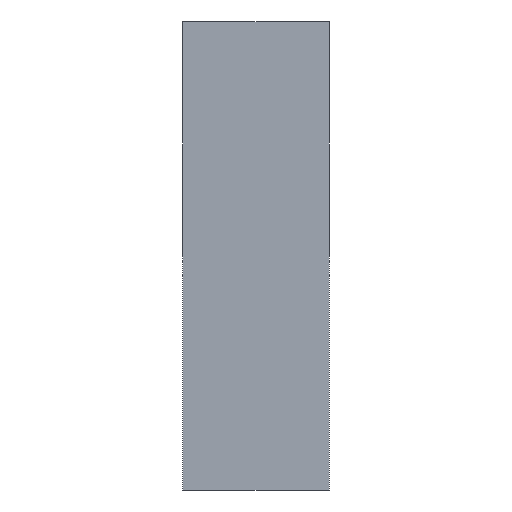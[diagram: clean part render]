
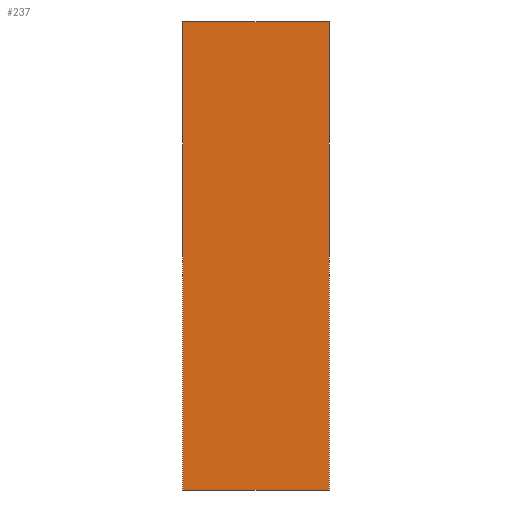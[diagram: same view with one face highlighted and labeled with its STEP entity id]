
A CAD part, front view. The second image highlights one B-rep face of the part: STEP entity #237.
In plain terms, the highlighted planar face has unit normal (0, -1, 0).
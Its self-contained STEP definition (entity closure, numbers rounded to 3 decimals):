
#21 = EDGE_CURVE('',#22,#24,#26,.T.);
#22 = VERTEX_POINT('',#23);
#23 = CARTESIAN_POINT('',(-232.5,-85.,36.74));
#24 = VERTEX_POINT('',#25);
#25 = CARTESIAN_POINT('',(-232.5,-85.,87.74));
#26 = SURFACE_CURVE('',#27,(#31,#43),.PCURVE_S1.);
#27 = LINE('',#28,#29);
#28 = CARTESIAN_POINT('',(-232.5,-85.,36.74));
#29 = VECTOR('',#30,1.);
#30 = DIRECTION('',(0.,0.,1.));
#31 = PCURVE('',#32,#37);
#32 = PLANE('',#33);
#33 = AXIS2_PLACEMENT_3D('',#34,#35,#36);
#34 = CARTESIAN_POINT('',(-232.5,-85.,36.74));
#35 = DIRECTION('',(1.,0.,0.));
#36 = DIRECTION('',(0.,0.,1.));
#37 = DEFINITIONAL_REPRESENTATION('',(#38),#42);
#38 = LINE('',#39,#40);
#39 = CARTESIAN_POINT('',(0.,0.));
#40 = VECTOR('',#41,1.);
#41 = DIRECTION('',(1.,0.));
#42 = ( GEOMETRIC_REPRESENTATION_CONTEXT(2) 
PARAMETRIC_REPRESENTATION_CONTEXT() REPRESENTATION_CONTEXT('2D SPACE',''
  ) );
#43 = PCURVE('',#44,#49);
#44 = PLANE('',#45);
#45 = AXIS2_PLACEMENT_3D('',#46,#47,#48);
#46 = CARTESIAN_POINT('',(-232.5,-85.,36.74));
#47 = DIRECTION('',(0.,1.,0.));
#48 = DIRECTION('',(0.,0.,1.));
#49 = DEFINITIONAL_REPRESENTATION('',(#50),#54);
#50 = LINE('',#51,#52);
#51 = CARTESIAN_POINT('',(0.,0.));
#52 = VECTOR('',#53,1.);
#53 = DIRECTION('',(1.,0.));
#54 = ( GEOMETRIC_REPRESENTATION_CONTEXT(2) 
PARAMETRIC_REPRESENTATION_CONTEXT() REPRESENTATION_CONTEXT('2D SPACE',''
  ) );
#72 = PLANE('',#73);
#73 = AXIS2_PLACEMENT_3D('',#74,#75,#76);
#74 = CARTESIAN_POINT('',(-232.5,-85.,36.74));
#75 = DIRECTION('',(0.,0.,1.));
#76 = DIRECTION('',(1.,0.,0.));
#126 = PLANE('',#127);
#127 = AXIS2_PLACEMENT_3D('',#128,#129,#130);
#128 = CARTESIAN_POINT('',(-232.5,-85.,87.74));
#129 = DIRECTION('',(0.,0.,1.));
#130 = DIRECTION('',(1.,0.,0.));
#141 = EDGE_CURVE('',#142,#144,#146,.T.);
#142 = VERTEX_POINT('',#143);
#143 = CARTESIAN_POINT('',(-216.5,-85.,36.74));
#144 = VERTEX_POINT('',#145);
#145 = CARTESIAN_POINT('',(-216.5,-85.,87.74));
#146 = SURFACE_CURVE('',#147,(#151,#163),.PCURVE_S1.);
#147 = LINE('',#148,#149);
#148 = CARTESIAN_POINT('',(-216.5,-85.,36.74));
#149 = VECTOR('',#150,1.);
#150 = DIRECTION('',(0.,0.,1.));
#151 = PCURVE('',#152,#157);
#152 = PLANE('',#153);
#153 = AXIS2_PLACEMENT_3D('',#154,#155,#156);
#154 = CARTESIAN_POINT('',(-216.5,-85.,36.74));
#155 = DIRECTION('',(1.,0.,0.));
#156 = DIRECTION('',(0.,0.,1.));
#157 = DEFINITIONAL_REPRESENTATION('',(#158),#162);
#158 = LINE('',#159,#160);
#159 = CARTESIAN_POINT('',(0.,0.));
#160 = VECTOR('',#161,1.);
#161 = DIRECTION('',(1.,0.));
#162 = ( GEOMETRIC_REPRESENTATION_CONTEXT(2) 
PARAMETRIC_REPRESENTATION_CONTEXT() REPRESENTATION_CONTEXT('2D SPACE',''
  ) );
#163 = PCURVE('',#44,#164);
#164 = DEFINITIONAL_REPRESENTATION('',(#165),#169);
#165 = LINE('',#166,#167);
#166 = CARTESIAN_POINT('',(0.,16.));
#167 = VECTOR('',#168,1.);
#168 = DIRECTION('',(1.,0.));
#169 = ( GEOMETRIC_REPRESENTATION_CONTEXT(2) 
PARAMETRIC_REPRESENTATION_CONTEXT() REPRESENTATION_CONTEXT('2D SPACE',''
  ) );
#237 = ADVANCED_FACE('',(#238),#44,.F.);
#238 = FACE_BOUND('',#239,.F.);
#239 = EDGE_LOOP('',(#240,#261,#262,#283));
#240 = ORIENTED_EDGE('',*,*,#241,.F.);
#241 = EDGE_CURVE('',#22,#142,#242,.T.);
#242 = SURFACE_CURVE('',#243,(#247,#254),.PCURVE_S1.);
#243 = LINE('',#244,#245);
#244 = CARTESIAN_POINT('',(-232.5,-85.,36.74));
#245 = VECTOR('',#246,1.);
#246 = DIRECTION('',(1.,0.,0.));
#247 = PCURVE('',#44,#248);
#248 = DEFINITIONAL_REPRESENTATION('',(#249),#253);
#249 = LINE('',#250,#251);
#250 = CARTESIAN_POINT('',(0.,0.));
#251 = VECTOR('',#252,1.);
#252 = DIRECTION('',(0.,1.));
#253 = ( GEOMETRIC_REPRESENTATION_CONTEXT(2) 
PARAMETRIC_REPRESENTATION_CONTEXT() REPRESENTATION_CONTEXT('2D SPACE',''
  ) );
#254 = PCURVE('',#72,#255);
#255 = DEFINITIONAL_REPRESENTATION('',(#256),#260);
#256 = LINE('',#257,#258);
#257 = CARTESIAN_POINT('',(0.,0.));
#258 = VECTOR('',#259,1.);
#259 = DIRECTION('',(1.,0.));
#260 = ( GEOMETRIC_REPRESENTATION_CONTEXT(2) 
PARAMETRIC_REPRESENTATION_CONTEXT() REPRESENTATION_CONTEXT('2D SPACE',''
  ) );
#261 = ORIENTED_EDGE('',*,*,#21,.T.);
#262 = ORIENTED_EDGE('',*,*,#263,.T.);
#263 = EDGE_CURVE('',#24,#144,#264,.T.);
#264 = SURFACE_CURVE('',#265,(#269,#276),.PCURVE_S1.);
#265 = LINE('',#266,#267);
#266 = CARTESIAN_POINT('',(-232.5,-85.,87.74));
#267 = VECTOR('',#268,1.);
#268 = DIRECTION('',(1.,0.,0.));
#269 = PCURVE('',#44,#270);
#270 = DEFINITIONAL_REPRESENTATION('',(#271),#275);
#271 = LINE('',#272,#273);
#272 = CARTESIAN_POINT('',(51.,0.));
#273 = VECTOR('',#274,1.);
#274 = DIRECTION('',(0.,1.));
#275 = ( GEOMETRIC_REPRESENTATION_CONTEXT(2) 
PARAMETRIC_REPRESENTATION_CONTEXT() REPRESENTATION_CONTEXT('2D SPACE',''
  ) );
#276 = PCURVE('',#126,#277);
#277 = DEFINITIONAL_REPRESENTATION('',(#278),#282);
#278 = LINE('',#279,#280);
#279 = CARTESIAN_POINT('',(0.,0.));
#280 = VECTOR('',#281,1.);
#281 = DIRECTION('',(1.,0.));
#282 = ( GEOMETRIC_REPRESENTATION_CONTEXT(2) 
PARAMETRIC_REPRESENTATION_CONTEXT() REPRESENTATION_CONTEXT('2D SPACE',''
  ) );
#283 = ORIENTED_EDGE('',*,*,#141,.F.);
